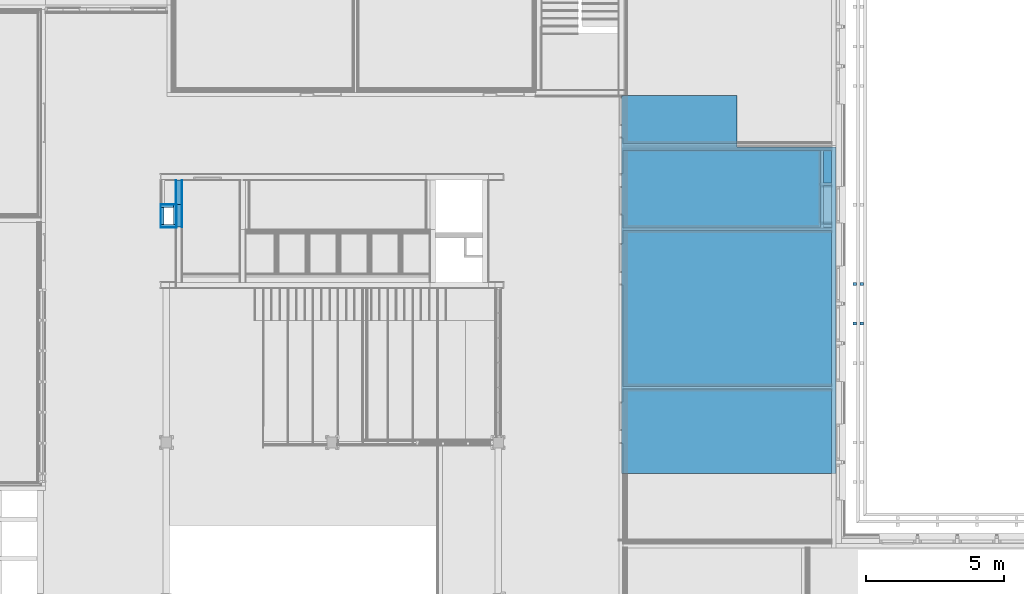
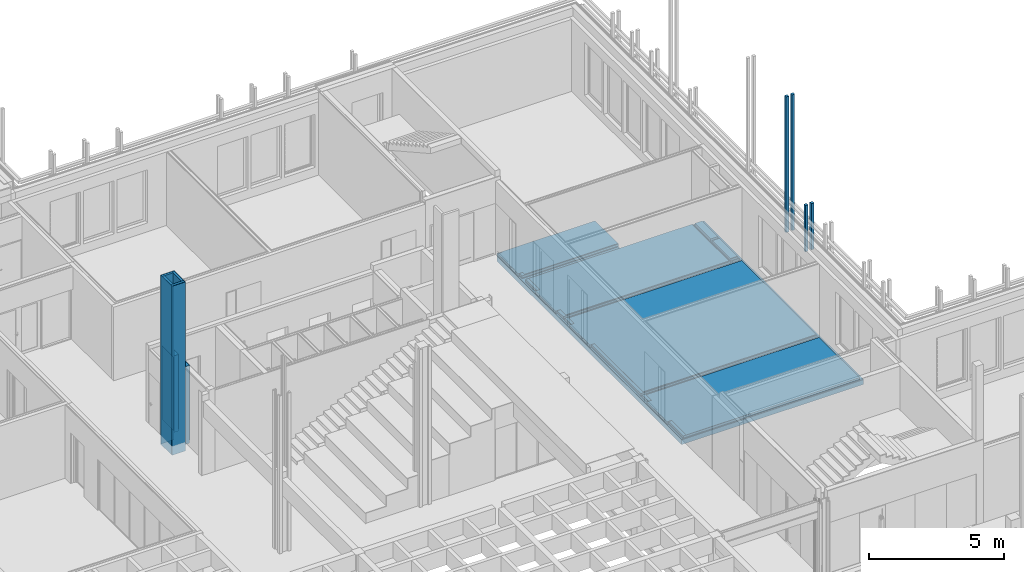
# One storey, part 98 of 139: 18 building element parts, 2 discrete accessories, 7 elements without a shape of their own.
"""IFC2X3 building model written with IfcOpenShell, lengths in millimetres."""

from ifc_helpers import new_model, entity, si_unit, converted_unit, derived_unit, money_unit, direction, frame, origin_with_axes, place, context, subcontext, project, spatial, faceted_brep, material, material_list, type_object, element, aggregate, save


model = new_model("IFC2X3")

# Units and contexts
model_context = context("Model", 3, precision=0.01, world=origin_with_axes(), true_north=direction((0.0, 1.0)))
body_context = subcontext(model_context, "Body", "Model", "MODEL_VIEW")
ifc_project = project(units=[si_unit("LENGTHUNIT", "METRE", prefix="MILLI"), si_unit("AREAUNIT", "SQUARE_METRE"), si_unit("VOLUMEUNIT", "CUBIC_METRE"), converted_unit("PLANEANGLEUNIT", "DEGREE", entity("IfcPlaneAngleMeasure", 0.0174532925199), si_unit("PLANEANGLEUNIT", "RADIAN"), dimensions=[0, 0, 0, 0, 0, 0, 0]), money_unit("EUR"), converted_unit("TIMEUNIT", "Year", entity("IfcTimeMeasure", 31556926.0), si_unit("TIMEUNIT", "SECOND"), dimensions=[0, 0, 1, 0, 0, 0, 0]), si_unit("MASSUNIT", "GRAM", prefix="KILO"), si_unit("THERMODYNAMICTEMPERATUREUNIT", "DEGREE_CELSIUS"), si_unit("LUMINOUSINTENSITYUNIT", "LUMEN"), si_unit("ENERGYUNIT", "JOULE", prefix="MEGA"), derived_unit("THERMALCONDUCTANCEUNIT", [(si_unit("POWERUNIT", "WATT"), 1), (si_unit("LENGTHUNIT", "METRE"), -1), (si_unit("THERMODYNAMICTEMPERATUREUNIT", "KELVIN"), -1)]), derived_unit("SPECIFICHEATCAPACITYUNIT", [(si_unit("ENERGYUNIT", "JOULE"), 1), (si_unit("MASSUNIT", "GRAM", prefix="KILO"), -1), (si_unit("THERMODYNAMICTEMPERATUREUNIT", "KELVIN"), -1)]), derived_unit("MASSDENSITYUNIT", [(si_unit("MASSUNIT", "GRAM", prefix="KILO"), 1), (si_unit("VOLUMEUNIT", "CUBIC_METRE"), -1)])], contexts=[model_context])

# Site, building, storey
site_placement = place(None, origin_with_axes())
site = spatial("IfcSite", under=ifc_project, at=site_placement, Name="Kolde pst 67a", CompositionType="ELEMENT")
building_placement = place(site_placement, origin_with_axes())
building = spatial("IfcBuilding", under=site, at=building_placement, Name="Riigigümnaasium", CompositionType="ELEMENT")
storey_placement = place(building_placement, frame((0.0, 0.0, 4600.0), z_axis=(0.0, 0.0, 1.0), x_axis=(1.0, 0.0, 0.0)))
storey = spatial("IfcBuildingStorey", under=building, at=storey_placement, Name="2. korrus", CompositionType="ELEMENT", Elevation=4600.0)

# Discrete accessories
ifc_material_1 = material(Name="_VÄLISVIIMISTLUS - sõrmjätkatud puitprussid 120x115mm, liitekohad vähemärgatavad, Platowood sõrmjätkatud kuusk või samaväärne; eeltöödeldud tuletõkkevõõbaga, tuletundlikkus B-s1, d0, Woodsafe Exterior WFX™ või samaväärne; kinnitused vastavalt EK osale")
ifc_material_list = material_list([ifc_material_1, ifc_material_1])
discrete_accessory_type = type_object("IfcDiscreteAccessoryType", Name="1+paiksekaitse 3 370 x 115")
discrete_accessory_1_placement = place(storey_placement, frame((61771.9937454, 44445.0015421, 2150.0), z_axis=(0.0, 0.0, 1.0), x_axis=(-1.0, 0.0, 0.0)))
element("IfcDiscreteAccessory", 1, at=discrete_accessory_1_placement, inside=storey, type_object=discrete_accessory_type, material=ifc_material_list, Name="Päikesevarjestus", context=body_context, shape_type="Brep", body=[
    faceted_brep([(467.0, 117.5, 0.0), (347.0, 117.5, 0.0), (347.0, 117.5, 2090.0), (467.0, 117.5, 2090.0), (467.0, 2.5, 0.0), (347.0, 2.5, 0.0), (347.0, 2.5, 2090.0), (467.0, 2.5, 2090.0)], [[[0, 1, 2, 3]], [[0, 4, 5, 1]], [[1, 5, 6, 2]], [[3, 2, 6, 7]], [[4, 0, 3, 7]], [[5, 4, 7, 6]]]),
    faceted_brep([(717.0, 117.5, 0.0), (597.0, 117.5, 0.0), (597.0, 117.5, 2090.0), (717.0, 117.5, 2090.0), (717.0, 2.5, 0.0), (597.0, 2.5, 0.0), (597.0, 2.5, 2090.0), (717.0, 2.5, 2090.0)], [[[0, 1, 2, 3]], [[0, 4, 5, 1]], [[1, 5, 6, 2]], [[3, 2, 6, 7]], [[4, 0, 3, 7]], [[5, 4, 7, 6]]]),
])
discrete_accessory_2_placement = place(storey_placement, frame((61771.9937454, 45875.0013897, 2150.0), z_axis=(0.0, 0.0, 1.0), x_axis=(-1.0, 0.0, 0.0)))
element("IfcDiscreteAccessory", 2, at=discrete_accessory_2_placement, inside=storey, type_object=discrete_accessory_type, material=ifc_material_list, Name="Päikesevarjestus", context=body_context, shape_type="Brep", body=[
    faceted_brep([(467.0, 117.5, 0.0), (347.0, 117.5, 0.0), (347.0, 117.5, 6130.0), (467.0, 117.5, 6130.0), (467.0, 2.5, 0.0), (347.0, 2.5, 0.0), (347.0, 2.5, 6130.0), (467.0, 2.5, 6130.0)], [[[0, 1, 2, 3]], [[0, 4, 5, 1]], [[1, 5, 6, 2]], [[3, 2, 6, 7]], [[4, 0, 3, 7]], [[5, 4, 7, 6]]]),
    faceted_brep([(717.0, 117.5, 0.0), (597.0, 117.5, 0.0), (597.0, 117.5, 6130.0), (717.0, 117.5, 6130.0), (717.0, 2.5, 0.0), (597.0, 2.5, 0.0), (597.0, 2.5, 6130.0), (717.0, 2.5, 6130.0)], [[[0, 1, 2, 3]], [[0, 4, 5, 1]], [[1, 5, 6, 2]], [[3, 2, 6, 7]], [[4, 0, 3, 7]], [[5, 4, 7, 6]]]),
])

# Wall, building element parts
wall_type_1 = type_object("IfcWallType", Name="SS-KP-10/2_SE šahti sein +plaat 115", PredefinedType="NOTDEFINED")
wall_1_placement = place(storey_placement, frame((36054.9992269, 47865.0003356, -409.999999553), z_axis=(0.0, 0.0, 1.0), x_axis=(1.0, 0.0, 0.0)))
wall_1 = element("IfcWall", 3, at=wall_1_placement, inside=storey, type_object=wall_type_1, Name="SE šaht")
ifc_material_2 = material(Name="_KANDETARIND - kergplokk Fibo 100mm")
building_element_part_1_placement = place(wall_1_placement, origin_with_axes())
building_element_part_1 = element("IfcBuildingElementPart", 4, at=building_element_part_1_placement, material=ifc_material_2, Name="_KANDETARIND - kergplokk Fibo 100mm", context=body_context, shape_type="Brep", body=[
    faceted_brep([(550.000003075, 100.0, 7630.0), (3.77269770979e-07, 100.0, 7630.0), (0.0, 0.0, 7630.0), (550.000003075, 0.0, 7630.0), (550.000003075, 100.0, 0.0), (3.77269770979e-07, 100.0, 0.0), (0.0, 0.0, 0.0), (550.000003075, 0.0, 0.0)], [[[0, 1, 2, 3]], [[4, 5, 1, 0]], [[2, 1, 5, 6]], [[3, 2, 6, 7]], [[3, 7, 4, 0]], [[7, 6, 5, 4]]]),
])
ifc_material_3 = material(Name="_VIIMISTLUSKIHT - viimistlus vastavalt SA osale")
building_element_part_2_placement = place(wall_1_placement, origin_with_axes())
building_element_part_2 = element("IfcBuildingElementPart", 5, at=building_element_part_2_placement, material=ifc_material_3, Name="_VIIMISTLUSKIHT - viimistlus vastavalt SA osale", context=body_context, shape_type="Brep", body=[
    faceted_brep([(565.000003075, 0.0, 7630.0), (-15.0, 0.0, 7630.0), (-15.0000000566, -15.0, 7630.0), (565.000003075, -15.0, 7630.0), (565.000003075, 0.0, 0.0), (-15.0, 0.0, 0.0), (-15.0000000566, -15.0, 0.0), (565.000003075, -15.0, 0.0)], [[[0, 1, 2, 3]], [[4, 5, 1, 0]], [[2, 1, 5, 6]], [[3, 2, 6, 7]], [[3, 7, 4, 0]], [[7, 6, 5, 4]]]),
])
aggregate(wall_1, [building_element_part_1, building_element_part_2])

wall_2_placement = place(storey_placement, frame((36604.99923, 47865.0003336, -409.999999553), z_axis=(0.0, 0.0, 1.0), x_axis=(0.0, 1.0, 0.0)))
wall_2 = element("IfcWall", 6, at=wall_2_placement, inside=storey, type_object=wall_type_1, Name="SE šaht")
building_element_part_3_placement = place(wall_2_placement, origin_with_axes())
building_element_part_3 = element("IfcBuildingElementPart", 7, at=building_element_part_3_placement, material=ifc_material_2, Name="_KANDETARIND - kergplokk Fibo 100mm", context=body_context, shape_type="Brep", body=[
    faceted_brep([(815.000002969, 100.0, 7630.0), (100.000002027, 100.0, 7630.0), (100.000002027, 0.0, 7630.0), (815.000002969, 0.0, 7630.0), (815.000002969, 100.0, 0.0), (100.000002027, 100.0, 0.0), (100.000002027, 0.0, 0.0), (815.000002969, 0.0, 0.0)], [[[0, 1, 2, 3]], [[4, 5, 1, 0]], [[2, 1, 5, 6]], [[3, 2, 6, 7]], [[3, 7, 4, 0]], [[7, 6, 5, 4]]]),
])
building_element_part_4_placement = place(wall_2_placement, origin_with_axes())
building_element_part_4 = element("IfcBuildingElementPart", 8, at=building_element_part_4_placement, material=ifc_material_3, Name="_VIIMISTLUSKIHT - viimistlus vastavalt SA osale", context=body_context, shape_type="Brep", body=[
    faceted_brep([(825.000002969, 0.0, 7630.0), (2.02668104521e-06, 0.0, 7630.0), (2.02668104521e-06, -15.0, 7630.0), (825.000002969, -15.0, 7630.0), (825.000002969, 0.0, 0.0), (2.02668104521e-06, 0.0, 0.0), (2.02668104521e-06, -15.0, 0.0), (825.000002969, -15.0, 0.0)], [[[0, 1, 2, 3]], [[4, 5, 1, 0]], [[2, 1, 5, 6]], [[3, 2, 6, 7]], [[3, 7, 4, 0]], [[7, 6, 5, 4]]]),
])
aggregate(wall_2, [building_element_part_3, building_element_part_4])

wall_type_2 = type_object("IfcWallType", Name="SS-KP-10/4_SE šahti sein +krohv 110", PredefinedType="NOTDEFINED")
wall_3_placement = place(storey_placement, frame((36604.99923, 48680.0003365, -409.999999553), z_axis=(0.0, 0.0, 1.0), x_axis=(-1.0, 0.0, 0.0)))
wall_3 = element("IfcWall", 9, at=wall_3_placement, inside=storey, type_object=wall_type_2, Name="SE šaht")
building_element_part_5_placement = place(wall_3_placement, origin_with_axes())
building_element_part_5 = element("IfcBuildingElementPart", 10, at=building_element_part_5_placement, material=ifc_material_2, Name="_KANDETARIND - kergplokk Fibo 100mm", context=body_context, shape_type="Brep", body=[
    faceted_brep([(550.000000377, 100.0, 7630.0), (100.0, 100.0, 7630.0), (100.0, 0.0, 7630.0), (550.0, 0.0, 7630.0), (550.000000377, 100.0, 0.0), (100.0, 100.0, 0.0), (100.0, 0.0, 0.0), (550.0, 0.0, 0.0)], [[[0, 1, 2, 3]], [[4, 5, 1, 0]], [[2, 1, 5, 6]], [[3, 2, 6, 7]], [[3, 7, 4, 0]], [[7, 6, 5, 4]]]),
])
building_element_part_6_placement = place(wall_3_placement, origin_with_axes())
building_element_part_6 = element("IfcBuildingElementPart", 11, at=building_element_part_6_placement, material=ifc_material_3, Name="_VIIMISTLUSKIHT - viimistlus vastavalt SA osale", context=body_context, shape_type="Brep", body=[
    faceted_brep([(550.0, 0.0, 7630.0), (0.0, 0.0, 7630.0), (0.0, -10.0, 7630.0), (549.999999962, -10.0, 7630.0), (550.0, 0.0, 0.0), (0.0, 0.0, 0.0), (0.0, -10.0, 0.0), (549.999999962, -10.0, 0.0)], [[[0, 1, 2, 3]], [[4, 5, 1, 0]], [[2, 1, 5, 6]], [[3, 2, 6, 7]], [[3, 7, 4, 0]], [[7, 6, 5, 4]]]),
])
aggregate(wall_3, [building_element_part_5, building_element_part_6])

wall_4_placement = place(storey_placement, frame((36054.99923, 48680.0003365, -410.0), z_axis=(0.0, 0.0, 1.0), x_axis=(-3.77273780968e-09, -1.0, 0.0)))
wall_4 = element("IfcWall", 12, at=wall_4_placement, inside=storey, type_object=wall_type_1, Name="SE šaht")
building_element_part_7_placement = place(wall_4_placement, origin_with_axes())
building_element_part_7 = element("IfcBuildingElementPart", 13, at=building_element_part_7_placement, material=ifc_material_2, Name="_KANDETARIND - kergplokk Fibo 100mm", context=body_context, shape_type="Brep", body=[
    faceted_brep([(715.000000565, 100.000002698, 7630.0), (99.9999996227, 100.000000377, 7630.0), (100.0, 3.77276876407e-07, 7630.0), (715.000000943, 2.69751154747e-06, 7630.0), (715.000000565, 100.000002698, 0.0), (99.9999996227, 100.000000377, 0.0), (100.0, 3.77276876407e-07, 0.0), (715.000000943, 2.69751154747e-06, 0.0)], [[[0, 1, 2, 3]], [[4, 5, 1, 0]], [[2, 1, 5, 6]], [[3, 2, 6, 7]], [[3, 7, 4, 0]], [[7, 6, 5, 4]]]),
])
building_element_part_8_placement = place(wall_4_placement, origin_with_axes())
building_element_part_8 = element("IfcBuildingElementPart", 14, at=building_element_part_8_placement, material=ifc_material_3, Name="_VIIMISTLUSKIHT - viimistlus vastavalt SA osale", context=body_context, shape_type="Brep", body=[
    faceted_brep([(815.000000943, 3.07478131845e-06, 7630.0), (-10.0, -3.77227138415e-08, 7630.0), (-9.9999999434, -15.0000000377, 7630.0), (815.000000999, -14.9999969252, 7630.0), (815.000000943, 3.07478131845e-06, 0.0), (-10.0, -3.77227138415e-08, 0.0), (-9.9999999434, -15.0000000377, 0.0), (815.000000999, -14.9999969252, 0.0)], [[[0, 1, 2, 3]], [[4, 5, 1, 0]], [[2, 1, 5, 6]], [[3, 2, 6, 7]], [[3, 7, 4, 0]], [[7, 6, 5, 4]]]),
])
aggregate(wall_4, [building_element_part_7, building_element_part_8])

wall_type_3 = type_object("IfcWallType", Name="SS-RB-20/2_+2 plaat 230", PredefinedType="NOTDEFINED")
wall_5_placement = place(storey_placement, frame((36804.99923, 48680.0003365, -80.0), z_axis=(0.0, 0.0, 1.0), x_axis=(0.0, 1.0, 0.0)))
wall_5 = element("IfcWall", 15, at=wall_5_placement, inside=storey, type_object=wall_type_3, Name="Sisesein")
building_element_part_9_placement = place(wall_5_placement, origin_with_axes())
building_element_part_9 = element("IfcBuildingElementPart", 16, at=building_element_part_9_placement, material=ifc_material_3, Name="_VIIMISTLUSKIHT - viimistlus vastavalt SA osale", context=body_context, shape_type="Brep", body=[
    faceted_brep([(874.999623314, 215.0, 3400.0), (874.999623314, 200.0, 3400.0), (874.999623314, 200.0, 80.0), (874.999623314, 215.0, 80.0), (0.0, 200.0, 3400.0), (0.0, 215.0, 3400.0), (0.0, 200.0, 80.0), (0.0, 215.0, 80.0)], [[[0, 1, 2, 3]], [[4, 1, 0, 5]], [[1, 4, 6, 2]], [[3, 2, 6, 7]], [[5, 0, 3, 7]], [[4, 5, 7, 6]]]),
])
ifc_material_4 = material(Name="_KANDETARIND - monteeritav raudbetoon vastavalt EK osale")
building_element_part_10_placement = place(wall_5_placement, origin_with_axes())
building_element_part_10 = element("IfcBuildingElementPart", 17, at=building_element_part_10_placement, material=ifc_material_4, Name="_KANDETARIND - monteeritav raudbetoon vastavalt EK osale", context=body_context, shape_type="Brep", body=[
    faceted_brep([(889.999623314, 200.0, 3460.0), (889.999623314, 0.0, 3460.0), (889.999623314, 0.0, 0.0), (889.999623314, 200.0, 0.0), (0.0, 0.0, 3460.0), (0.0, 200.0, 3460.0), (0.0, 0.0, 0.0), (0.0, 200.0, 0.0)], [[[0, 1, 2, 3]], [[4, 1, 0, 5]], [[1, 4, 6, 2]], [[3, 2, 6, 7]], [[5, 0, 3, 7]], [[4, 5, 7, 6]]]),
])
building_element_part_11_placement = place(wall_5_placement, origin_with_axes())
building_element_part_11 = element("IfcBuildingElementPart", 18, at=building_element_part_11_placement, material=ifc_material_3, Name="_VIIMISTLUSKIHT - viimistlus vastavalt SA osale", context=body_context, shape_type="Brep", body=[
    faceted_brep([(874.999623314, 0.0, 3460.0), (874.999623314, -15.0, 3460.0), (874.999623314, -15.0, 80.0), (874.999623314, 0.0, 80.0), (0.0, -15.0, 3460.0), (0.0, 0.0, 3460.0), (0.0, -15.0, 80.0), (0.0, 0.0, 80.0)], [[[0, 1, 2, 3]], [[4, 1, 0, 5]], [[1, 4, 6, 2]], [[3, 2, 6, 7]], [[5, 0, 3, 7]], [[4, 5, 7, 6]]]),
])
aggregate(wall_5, [building_element_part_9, building_element_part_10, building_element_part_11])

wall_type_4 = type_object("IfcWallType", Name="SS-RB-20/5_+1 plaat 215", PredefinedType="NOTDEFINED")
wall_6_placement = place(storey_placement, frame((36804.99923, 47865.0003356, -150.0), z_axis=(0.0, 0.0, 1.0), x_axis=(0.0, 1.0, 0.0)))
wall_6 = element("IfcWall", 19, at=wall_6_placement, inside=storey, type_object=wall_type_4, Name="Sisesein")
building_element_part_12_placement = place(wall_6_placement, origin_with_axes())
building_element_part_12 = element("IfcBuildingElementPart", 20, at=building_element_part_12_placement, material=ifc_material_4, Name="_KANDETARIND - monteeritav raudbetoon vastavalt EK osale", context=body_context, shape_type="Brep", body=[
    faceted_brep([(815.000000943, 200.0, 3530.0), (815.000000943, 0.0, 3530.0), (815.000000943, 0.0, 20.0), (815.000000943, 200.0, 20.0), (0.0, 0.0, 3530.0), (0.0, 200.0, 3530.0), (0.0, 0.0, 20.0), (0.0, 200.0, 20.0)], [[[0, 1, 2, 3]], [[4, 1, 0, 5]], [[1, 4, 6, 2]], [[3, 2, 6, 7]], [[5, 0, 3, 7]], [[4, 5, 7, 6]]]),
])
building_element_part_13_placement = place(wall_6_placement, origin_with_axes())
building_element_part_13 = element("IfcBuildingElementPart", 21, at=building_element_part_13_placement, material=ifc_material_3, Name="_VIIMISTLUSKIHT - viimistlus vastavalt SA osale", context=body_context, shape_type="Brep", body=[
    faceted_brep([(815.000000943, 0.0, 3530.0), (815.000000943, -15.0, 3530.0), (815.000000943, -15.0, 150.0), (815.000000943, 0.0, 150.0), (0.0, -15.0, 3530.0), (0.0, 0.0, 3530.0), (0.0, -15.0, 150.0), (0.0, 0.0, 150.0)], [[[0, 1, 2, 3]], [[4, 1, 0, 5]], [[1, 4, 6, 2]], [[3, 2, 6, 7]], [[5, 0, 3, 7]], [[4, 5, 7, 6]]]),
])
aggregate(wall_6, [building_element_part_12, building_element_part_13])

# Slab, building element parts
slab_type = type_object("IfcSlabType", Name="VL-RB-22/3_PVC 370", PredefinedType="NOTDEFINED")
slab_placement = place(storey_placement, frame((52679.9941222, 38971.8677168, 0.0), z_axis=(0.0, 0.0, 1.0), x_axis=(1.0, 0.0, 0.0)))
slab = element("IfcSlab", 22, at=slab_placement, inside=storey, type_object=slab_type, Name="VAHELAGI", PredefinedType="NOTDEFINED")
building_element_part_14_placement = place(slab_placement, origin_with_axes())
building_element_part_14 = element("IfcBuildingElementPart", 23, at=building_element_part_14_placement, material=ifc_material_3, Name="_VIIMISTLUSKIHT - viimistlus vastavalt SA osale", context=body_context, shape_type="Brep", body=[
    faceted_brep([(7600.0, 2993.42331077, -3.0), (7600.0, 2993.42331077, 0.0), (7600.0, 0.0, 0.0), (7600.0, 0.0, -3.0), (199.999999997, 2993.42331077, 0.0), (199.999999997, 2993.42331077, -3.0), (199.999999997, 2583.42331077, 0.0), (3.40278916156e-08, 2583.42331077, 0.0), (1.42676981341e-08, 1083.42331077, 0.0), (199.999999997, 1083.42331077, 0.0), (199.999999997, 0.0, 0.0), (199.999999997, 0.0, -3.0), (199.999999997, 1083.42331077, -3.0), (1.42676981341e-08, 1083.42331077, -3.0), (3.40278916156e-08, 2583.42331077, -3.0), (199.999999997, 2583.42331077, -3.0)], [[[0, 1, 2, 3]], [[4, 1, 0, 5]], [[1, 4, 6, 7, 8, 9, 10, 2]], [[10, 11, 3, 2]], [[5, 0, 3, 11, 12, 13, 14, 15]], [[4, 5, 15, 6]], [[6, 15, 14, 7]], [[13, 8, 7, 14]], [[12, 9, 8, 13]], [[10, 9, 12, 11]]]),
    faceted_brep([(7600.0, 9033.13216566, 0.0), (7600.0, 10368.1321657, 0.0), (7295.0, 10368.1321657, 0.0), (7295.0, 10358.1321657, 0.0), (7300.0, 10358.1321657, 0.0), (7300.0, 9033.13216566, 0.0), (7600.0, 10368.1321657, -3.0), (7600.0, 9033.13216566, -3.0), (7295.0, 10368.1321657, -3.0), (7295.0, 10358.1321657, -3.0), (7300.0, 10358.1321657, -3.0), (7300.0, 9033.13216566, -3.0)], [[[0, 1, 2, 3, 4, 5]], [[6, 1, 0, 7]], [[1, 6, 8, 2]], [[9, 3, 2, 8]], [[4, 3, 9, 10]], [[5, 4, 10, 11]], [[7, 0, 5, 11]], [[6, 7, 11, 10, 9, 8]]]),
    faceted_brep([(7600.0, 11663.1326619, -3.0), (7600.0, 11663.1326619, 0.0), (7600.0, 10493.1321657, 0.0), (7600.0, 10493.1321657, -3.0), (7295.0, 11663.1326619, 0.0), (7295.0, 11663.1326619, -3.0), (7295.0, 10493.1321657, 0.0), (7295.0, 10493.1321657, -3.0)], [[[0, 1, 2, 3]], [[4, 1, 0, 5]], [[1, 4, 6, 2]], [[3, 2, 6, 7]], [[5, 0, 3, 7]], [[4, 5, 7, 6]]]),
    faceted_brep([(199.999999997, 12108.1324675, 0.0), (199.999999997, 11953.1326619, 0.0), (4184.99998879, 11953.1326619, 0.0), (4184.99998879, 13648.1324675, 0.0), (1.7976020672e-07, 13648.1324675, 0.0), (1.796252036e-07, 13638.1324675, 0.0), (199.999999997, 13638.1324675, 0.0), (199.999999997, 13608.1324675, 0.0), (1.79234405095e-07, 13608.1324675, 0.0), (1.59474211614e-07, 12108.1324675, 0.0), (199.999999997, 12108.1324675, -3.0), (199.999999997, 11953.1326619, -3.0), (4184.99998879, 11953.1326619, -3.0), (4184.99998879, 13648.1324675, -3.0), (1.7976020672e-07, 13648.1324675, -3.0), (1.796252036e-07, 13638.1324675, -3.0), (199.999999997, 13638.1324675, -3.0), (199.999999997, 13608.1324675, -3.0), (1.79234405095e-07, 13608.1324675, -3.0), (1.59474211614e-07, 12108.1324675, -3.0)], [[[0, 1, 2, 3, 4, 5, 6, 7, 8, 9]], [[1, 0, 10, 11]], [[1, 11, 12, 2]], [[2, 12, 13, 3]], [[13, 14, 4, 3]], [[15, 5, 4, 14]], [[16, 6, 5, 15]], [[7, 6, 16, 17]], [[7, 17, 18, 8]], [[19, 9, 8, 18]], [[10, 0, 9, 19]], [[10, 19, 18, 17, 16, 15, 14, 13, 12, 11]]]),
    faceted_brep([(199.999999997, 9328.13216566, 0.0), (199.999999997, 8928.13216566, 0.0), (7175.00000088, 8928.13216566, 0.0), (7175.0, 10358.1321657, 0.0), (7170.0, 10358.1321657, 0.0), (7170.0, 11663.1326619, 0.0), (199.999999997, 11663.1326619, 0.0), (199.999999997, 10828.1321657, 0.0), (1.42620137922e-07, 10828.1321657, 0.0), (1.2285994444e-07, 9328.13216566, 0.0), (199.999999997, 9328.13216566, -3.0), (199.999999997, 8928.13216566, -3.0), (7175.00000088, 8928.13216566, -3.0), (7175.0, 10358.1321657, -3.0), (7170.0, 10358.1321657, -3.0), (7170.0, 11663.1326619, -3.0), (199.999999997, 11663.1326619, -3.0), (199.999999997, 10828.1321657, -3.0), (1.42620137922e-07, 10828.1321657, -3.0), (1.2285994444e-07, 9328.13216566, -3.0)], [[[0, 1, 2, 3, 4, 5, 6, 7, 8, 9]], [[1, 0, 10, 11]], [[1, 11, 12, 2]], [[2, 12, 13, 3]], [[3, 13, 14, 4]], [[15, 5, 4, 14]], [[16, 6, 5, 15]], [[7, 6, 16, 17]], [[7, 17, 18, 8]], [[19, 9, 8, 18]], [[10, 0, 9, 19]], [[10, 19, 18, 17, 16, 15, 14, 13, 12, 11]]]),
    faceted_brep([(199.999999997, 3203.42331077, 0.0), (7600.0, 3203.42331077, 0.0), (7600.0, 8718.13216566, 0.0), (199.999999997, 8718.13216566, 0.0), (199.999999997, 8303.13216566, 0.0), (1.09359632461e-07, 8303.13216566, 0.0), (8.96065444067e-08, 6803.13216566, 0.0), (199.999999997, 6803.13216566, 0.0), (7600.0, 3203.42331077, -3.0), (199.999999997, 3203.42331077, -3.0), (7600.0, 8718.13216566, -3.0), (199.999999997, 8718.13216566, -3.0), (199.999999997, 8303.13216566, -3.0), (1.09359632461e-07, 8303.13216566, -3.0), (8.96065444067e-08, 6803.13216566, -3.0), (199.999999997, 6803.13216566, -3.0)], [[[0, 1, 2, 3, 4, 5, 6, 7]], [[8, 1, 0, 9]], [[1, 8, 10, 2]], [[11, 3, 2, 10]], [[4, 3, 11, 12]], [[4, 12, 13, 5]], [[14, 6, 5, 13]], [[15, 7, 6, 14]], [[9, 0, 7, 15]], [[8, 9, 15, 14, 13, 12, 11, 10]]]),
])
ifc_material_5 = material(Name="_UJUV TARIND - täitematerjal 1800 kg/m3")
building_element_part_15_placement = place(slab_placement, origin_with_axes())
building_element_part_15 = element("IfcBuildingElementPart", 24, at=building_element_part_15_placement, material=ifc_material_5, Name="_UJUV TARIND - täitematerjal 1800 kg/m3", context=body_context, shape_type="Brep", body=[
    faceted_brep([(7600.0, 3048.42331077, -100.0), (7600.0, 3048.42331077, -3.0), (7600.0, 0.0, -3.0), (7600.0, 0.0, -100.0), (69.9999999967, 3048.42331077, -3.0), (69.9999999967, 3048.42331077, -100.0), (69.9999999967, 2583.42331077, -3.0), (3.40278916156e-08, 2583.42331077, -3.0), (1.42676981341e-08, 1083.42331077, -3.0), (69.9999999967, 1083.42331077, -3.0), (69.9999999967, 0.0, -3.0), (69.9999999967, 0.0, -100.0), (69.9999999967, 1083.42331077, -100.0), (1.42676981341e-08, 1083.42331077, -100.0), (3.40278916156e-08, 2583.42331077, -100.0), (69.9999999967, 2583.42331077, -100.0)], [[[0, 1, 2, 3]], [[4, 1, 0, 5]], [[1, 4, 6, 7, 8, 9, 10, 2]], [[10, 11, 3, 2]], [[5, 0, 3, 11, 12, 13, 14, 15]], [[4, 5, 15, 6]], [[7, 6, 15, 14]], [[13, 8, 7, 14]], [[9, 8, 13, 12]], [[10, 9, 12, 11]]]),
    faceted_brep([(7600.0, 9008.13216566, -3.0), (7600.0, 10393.1321657, -3.0), (7295.0, 10393.1321657, -3.0), (7295.0, 10358.1321657, -3.0), (7300.0, 10358.1321657, -3.0), (7300.0, 9008.13216566, -3.0), (7600.0, 10393.1321657, -100.0), (7600.0, 9008.13216566, -100.0), (7295.0, 10393.1321657, -100.0), (7295.0, 10358.1321657, -100.0), (7300.0, 10358.1321657, -100.0), (7300.0, 9008.13216566, -100.0)], [[[0, 1, 2, 3, 4, 5]], [[6, 1, 0, 7]], [[1, 6, 8, 2]], [[9, 3, 2, 8]], [[4, 3, 9, 10]], [[5, 4, 10, 11]], [[7, 0, 5, 11]], [[6, 7, 11, 10, 9, 8]]]),
    faceted_brep([(7600.0, 11663.1326619, -100.0), (7600.0, 11663.1326619, -3.0), (7600.0, 10493.1321657, -3.0), (7600.0, 10493.1321657, -100.0), (7295.0, 11663.1326619, -3.0), (7295.0, 11663.1326619, -100.0), (7295.0, 10493.1321657, -3.0), (7295.0, 10493.1321657, -100.0)], [[[0, 1, 2, 3]], [[4, 1, 0, 5]], [[1, 4, 6, 2]], [[3, 2, 6, 7]], [[5, 0, 3, 7]], [[4, 5, 7, 6]]]),
    faceted_brep([(7300.0, 8873.13216566, -3.0), (7600.0, 8873.13216566, -3.0), (7600.0, 8908.13216566, -3.0), (7300.0, 8908.13216566, -3.0), (7600.0, 8873.13216566, -100.0), (7300.0, 8873.13216566, -100.0), (7600.0, 8908.13216566, -100.0), (7300.0, 8908.13216566, -100.0)], [[[0, 1, 2, 3]], [[4, 1, 0, 5]], [[1, 4, 6, 2]], [[2, 6, 7, 3]], [[5, 0, 3, 7]], [[4, 5, 7, 6]]]),
    faceted_brep([(69.9999999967, 12108.1324675, -3.0), (69.9999999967, 11923.1326619, -3.0), (4184.99998879, 11923.1326619, -3.0), (4184.99998879, 13648.1324675, -3.0), (1.7976020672e-07, 13648.1324675, -3.0), (1.796252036e-07, 13638.1324675, -3.0), (69.9999999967, 13638.1324675, -3.0), (69.9999999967, 13608.1324675, -3.0), (1.79234405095e-07, 13608.1324675, -3.0), (1.59474211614e-07, 12108.1324675, -3.0), (69.9999999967, 12108.1324675, -100.0), (69.9999999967, 11923.1326619, -100.0), (4184.99998879, 11923.1326619, -100.0), (4184.99998879, 13648.1324675, -100.0), (1.7976020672e-07, 13648.1324675, -100.0), (1.796252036e-07, 13638.1324675, -100.0), (69.9999999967, 13638.1324675, -100.0), (69.9999999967, 13608.1324675, -100.0), (1.79234405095e-07, 13608.1324675, -100.0), (1.59474211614e-07, 12108.1324675, -100.0)], [[[0, 1, 2, 3, 4, 5, 6, 7, 8, 9]], [[1, 0, 10, 11]], [[1, 11, 12, 2]], [[2, 12, 13, 3]], [[13, 14, 4, 3]], [[15, 5, 4, 14]], [[6, 5, 15, 16]], [[7, 6, 16, 17]], [[8, 7, 17, 18]], [[19, 9, 8, 18]], [[0, 9, 19, 10]], [[10, 19, 18, 17, 16, 15, 14, 13, 12, 11]]]),
    faceted_brep([(69.9999999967, 9328.13216566, -3.0), (69.9999999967, 8873.13216566, -3.0), (7200.00000029, 8873.13216566, -3.0), (7200.0, 10358.1321657, -3.0), (7195.0, 10358.1321657, -3.0), (7195.0, 10393.1321657, -3.0), (7170.0, 10393.1321657, -3.0), (7170.0, 10493.1321657, -3.0), (7195.0, 10493.1321657, -3.0), (7195.0, 11663.1326619, -3.0), (69.9999999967, 11663.1326619, -3.0), (69.9999999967, 10828.1321657, -3.0), (1.42620137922e-07, 10828.1321657, -3.0), (1.2285994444e-07, 9328.13216566, -3.0), (69.9999999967, 9328.13216566, -100.0), (69.9999999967, 8873.13216566, -100.0), (7200.00000029, 8873.13216566, -100.0), (7200.0, 10358.1321657, -100.0), (7195.0, 10358.1321657, -100.0), (7195.0, 10393.1321657, -100.0), (7170.0, 10393.1321657, -100.0), (7170.0, 10493.1321657, -100.0), (7195.0, 10493.1321657, -100.0), (7195.0, 11663.1326619, -100.0), (69.9999999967, 11663.1326619, -100.0), (69.9999999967, 10828.1321657, -100.0), (1.42620137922e-07, 10828.1321657, -100.0), (1.2285994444e-07, 9328.13216566, -100.0)], [[[0, 1, 2, 3, 4, 5, 6, 7, 8, 9, 10, 11, 12, 13]], [[1, 0, 14, 15]], [[1, 15, 16, 2]], [[2, 16, 17, 3]], [[3, 17, 18, 4]], [[19, 5, 4, 18]], [[5, 19, 20, 6]], [[7, 6, 20, 21]], [[22, 8, 7, 21]], [[23, 9, 8, 22]], [[24, 10, 9, 23]], [[11, 10, 24, 25]], [[12, 11, 25, 26]], [[27, 13, 12, 26]], [[0, 13, 27, 14]], [[14, 27, 26, 25, 24, 23, 22, 21, 20, 19, 18, 17, 16, 15]]]),
    faceted_brep([(69.9999999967, 3148.42331077, -3.0), (7600.0, 3148.42331077, -3.0), (7600.0, 8773.13216566, -3.0), (69.9999999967, 8773.13216566, -3.0), (69.9999999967, 8303.13216566, -3.0), (1.09359632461e-07, 8303.13216566, -3.0), (8.96065444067e-08, 6803.13216566, -3.0), (69.9999999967, 6803.13216566, -3.0), (7600.0, 3148.42331077, -100.0), (69.9999999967, 3148.42331077, -100.0), (7600.0, 8773.13216566, -100.0), (69.9999999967, 8773.13216566, -100.0), (69.9999999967, 8303.13216566, -100.0), (1.09359632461e-07, 8303.13216566, -100.0), (8.96065444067e-08, 6803.13216566, -100.0), (69.9999999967, 6803.13216566, -100.0)], [[[0, 1, 2, 3, 4, 5, 6, 7]], [[8, 1, 0, 9]], [[1, 8, 10, 2]], [[11, 3, 2, 10]], [[4, 3, 11, 12]], [[5, 4, 12, 13]], [[14, 6, 5, 13]], [[7, 6, 14, 15]], [[9, 0, 7, 15]], [[8, 9, 15, 14, 13, 12, 11, 10]]]),
])
ifc_material_6 = material(Name="_SOOJUSTUS - mürasummutav mineraalvill ISOVER FLO")
building_element_part_16_placement = place(slab_placement, origin_with_axes())
building_element_part_16 = element("IfcBuildingElementPart", 25, at=building_element_part_16_placement, material=ifc_material_6, Name="_SOOJUSTUS - mürasummutav mineraalvill ISOVER FLO", context=body_context, shape_type="Brep", body=[
    faceted_brep([(7600.0, 3048.42331077, -130.0), (7600.0, 3048.42331077, -100.0), (7600.0, 0.0, -100.0), (7600.0, 0.0, -130.0), (69.9999999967, 3048.42331077, -100.0), (69.9999999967, 3048.42331077, -130.0), (69.9999999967, 2583.42331077, -100.0), (3.40278916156e-08, 2583.42331077, -100.0), (1.42676981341e-08, 1083.42331077, -100.0), (69.9999999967, 1083.42331077, -100.0), (69.9999999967, 0.0, -100.0), (69.9999999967, 0.0, -130.0), (69.9999999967, 1083.42331077, -130.0), (1.42676981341e-08, 1083.42331077, -130.0), (3.40278916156e-08, 2583.42331077, -130.0), (69.9999999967, 2583.42331077, -130.0)], [[[0, 1, 2, 3]], [[4, 1, 0, 5]], [[1, 4, 6, 7, 8, 9, 10, 2]], [[10, 11, 3, 2]], [[5, 0, 3, 11, 12, 13, 14, 15]], [[4, 5, 15, 6]], [[7, 6, 15, 14]], [[13, 8, 7, 14]], [[9, 8, 13, 12]], [[10, 9, 12, 11]]]),
    faceted_brep([(69.9999999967, 12108.1324675, -100.0), (69.9999999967, 11923.1326619, -100.0), (4184.99998879, 11923.1326619, -100.0), (4184.99998879, 13648.1324675, -100.0), (1.7976020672e-07, 13648.1324675, -100.0), (1.796252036e-07, 13638.1324675, -100.0), (69.9999999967, 13638.1324675, -100.0), (69.9999999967, 13608.1324675, -100.0), (1.79234405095e-07, 13608.1324675, -100.0), (1.59474211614e-07, 12108.1324675, -100.0), (69.9999999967, 12108.1324675, -130.0), (69.9999999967, 11923.1326619, -130.0), (4184.99998879, 11923.1326619, -130.0), (4184.99998879, 13648.1324675, -130.0), (1.7976020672e-07, 13648.1324675, -130.0), (1.796252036e-07, 13638.1324675, -130.0), (69.9999999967, 13638.1324675, -130.0), (69.9999999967, 13608.1324675, -130.0), (1.79234405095e-07, 13608.1324675, -130.0), (1.59474211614e-07, 12108.1324675, -130.0)], [[[0, 1, 2, 3, 4, 5, 6, 7, 8, 9]], [[1, 0, 10, 11]], [[1, 11, 12, 2]], [[2, 12, 13, 3]], [[13, 14, 4, 3]], [[15, 5, 4, 14]], [[6, 5, 15, 16]], [[7, 6, 16, 17]], [[8, 7, 17, 18]], [[19, 9, 8, 18]], [[0, 9, 19, 10]], [[10, 19, 18, 17, 16, 15, 14, 13, 12, 11]]]),
    faceted_brep([(69.9999999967, 9328.13216566, -100.0), (69.9999999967, 8873.13216566, -100.0), (7600.0, 8873.13216566, -100.0), (7600.0, 11663.1326619, -100.0), (69.9999999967, 11663.1326619, -100.0), (69.9999999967, 10828.1321657, -100.0), (1.42620137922e-07, 10828.1321657, -100.0), (1.2285994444e-07, 9328.13216566, -100.0), (69.9999999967, 9328.13216566, -130.0), (69.9999999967, 8873.13216566, -130.0), (7600.0, 8873.13216566, -130.0), (7600.0, 11663.1326619, -130.0), (69.9999999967, 11663.1326619, -130.0), (69.9999999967, 10828.1321657, -130.0), (1.42620137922e-07, 10828.1321657, -130.0), (1.2285994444e-07, 9328.13216566, -130.0)], [[[0, 1, 2, 3, 4, 5, 6, 7]], [[1, 0, 8, 9]], [[1, 9, 10, 2]], [[2, 10, 11, 3]], [[12, 4, 3, 11]], [[5, 4, 12, 13]], [[6, 5, 13, 14]], [[15, 7, 6, 14]], [[0, 7, 15, 8]], [[8, 15, 14, 13, 12, 11, 10, 9]]]),
    faceted_brep([(69.9999999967, 3148.42331077, -100.0), (7600.0, 3148.42331077, -100.0), (7600.0, 8773.13216566, -100.0), (69.9999999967, 8773.13216566, -100.0), (69.9999999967, 8303.13216566, -100.0), (1.09359632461e-07, 8303.13216566, -100.0), (8.96065444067e-08, 6803.13216566, -100.0), (69.9999999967, 6803.13216566, -100.0), (7600.0, 3148.42331077, -130.0), (69.9999999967, 3148.42331077, -130.0), (7600.0, 8773.13216566, -130.0), (69.9999999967, 8773.13216566, -130.0), (69.9999999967, 8303.13216566, -130.0), (1.09359632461e-07, 8303.13216566, -130.0), (8.96065444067e-08, 6803.13216566, -130.0), (69.9999999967, 6803.13216566, -130.0)], [[[0, 1, 2, 3, 4, 5, 6, 7]], [[8, 1, 0, 9]], [[1, 8, 10, 2]], [[11, 3, 2, 10]], [[4, 3, 11, 12]], [[5, 4, 12, 13]], [[14, 6, 5, 13]], [[7, 6, 14, 15]], [[9, 0, 7, 15]], [[8, 9, 15, 14, 13, 12, 11, 10]]]),
])
ifc_material_7 = material(Name="_SOOJUSTUS - vahtploüstüreenplaadid EPS100")
building_element_part_17_placement = place(slab_placement, origin_with_axes())
building_element_part_17 = element("IfcBuildingElementPart", 26, at=building_element_part_17_placement, material=ifc_material_7, Name="_SOOJUSTUS - vahtploüstüreenplaadid EPS100", context=body_context, shape_type="Brep", body=[
    faceted_brep([(7760.0, 0.0, -150.0), (7760.0, 0.0, -130.0), (0.0, 0.0, -130.0), (0.0, 0.0, -150.0), (7760.0, 11783.1326619, -150.0), (7760.0, 11783.1326619, -130.0), (4184.99998879, 11783.1326619, -130.0), (4184.99998879, 13648.1324675, -130.0), (1.7976020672e-07, 13648.1324675, -130.0), (1.7976020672e-07, 13648.1324675, -150.0), (4184.99998879, 13648.1324675, -150.0), (4184.99998879, 11783.1326619, -150.0)], [[[0, 1, 2, 3]], [[4, 5, 1, 0]], [[2, 1, 5, 6, 7, 8]], [[3, 2, 8, 9]], [[3, 9, 10, 11, 4, 0]], [[11, 6, 5, 4]], [[10, 7, 6, 11]], [[9, 8, 7, 10]]]),
])
ifc_material_8 = material(Name="_KANDETARIND - monteeritav raudbetoon õõnespaneel, C50/60, eelpingestatud copy")
building_element_part_18_placement = place(slab_placement, origin_with_axes())
building_element_part_18 = element("IfcBuildingElementPart", 27, at=building_element_part_18_placement, material=ifc_material_8, Name="_KANDETARIND - monteeritav raudbetoon õõnespaneel, C50/60, eelpingestatud copy", context=body_context, shape_type="Brep", body=[
    faceted_brep([(0.0, 0.0, -370.0), (7760.0, 0.0, -370.0), (7760.0, 0.0, -150.0), (0.0, 0.0, -150.0), (1.7976020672e-07, 13648.1324675, -370.0), (4184.99998879, 13648.1324675, -370.0), (4184.99998879, 11783.1326619, -370.0), (7760.0, 11783.1326619, -370.0), (7760.0, 11783.1326619, -150.0), (4184.99998879, 11783.1326619, -150.0), (4184.99998879, 13648.1324675, -150.0), (1.7976020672e-07, 13648.1324675, -150.0)], [[[0, 1, 2, 3]], [[0, 4, 5, 6, 7, 1]], [[1, 7, 8, 2]], [[3, 2, 8, 9, 10, 11]], [[4, 0, 3, 11]], [[5, 4, 11, 10]], [[6, 5, 10, 9]], [[7, 6, 9, 8]]]),
])
aggregate(slab, [building_element_part_14, building_element_part_15, building_element_part_16, building_element_part_17, building_element_part_18])

save(model, "model.ifc")
